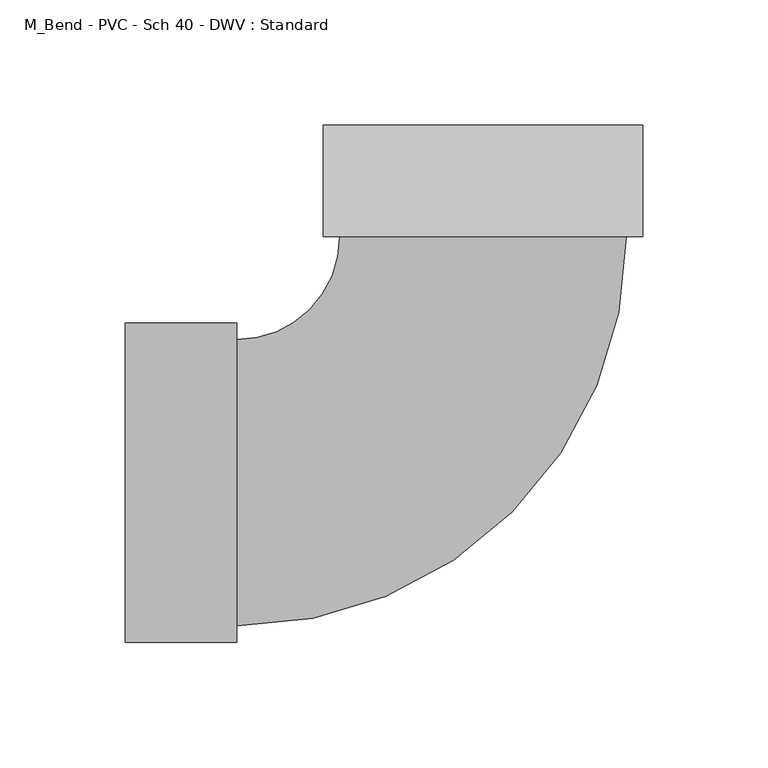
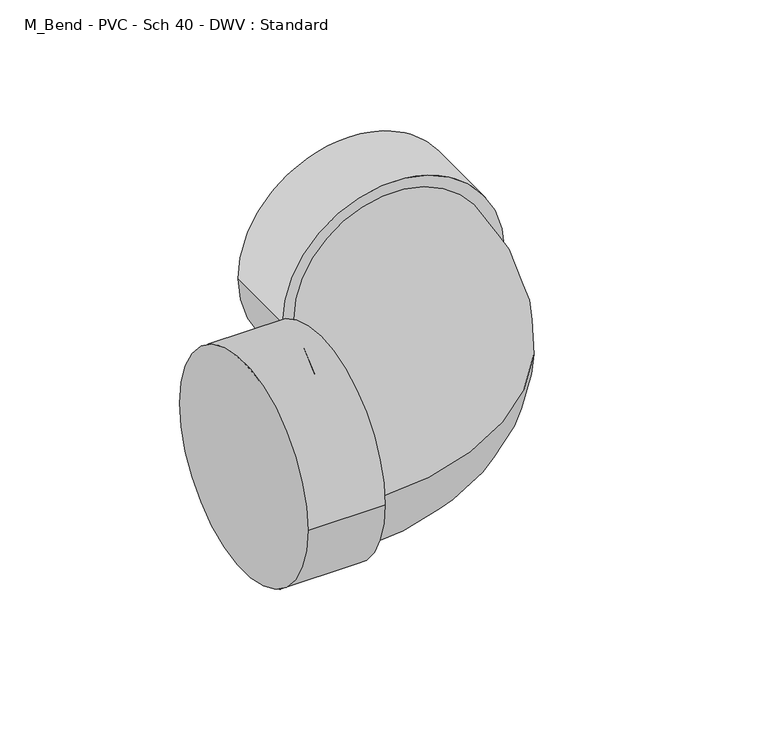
"""IFC4 building model written with IfcOpenShell, lengths in millimetres: pipe fitting geometry, M_Bend - PVC - Sch 40 - DWV : Standard."""

from ifc_helpers import new_model, si_unit, point, frame, origin, place, context, project, spatial, circle_curve, ellipse_curve, trimmed, source, transform, mapped, element, save
from ifc_brep_helpers import plane_surface, cylinder_surface, revolved_surface, advanced_brep


def m_bend_pvc_sch_40_dwv_standard_b6ce66eb(model_context):
    return source(origin(), model_context, "Body", "AdvancedBrep", [
        advanced_brep(
        [(-142.875, -63.754, 0.0), (-142.875, 63.754, 0.0), (-98.425, -63.754, 0.0), (-98.425, 63.754, 0.0), (-98.425, -57.15, 0.0), (-98.425, 57.15, 0.0), (-57.1505338, 98.4246901, 0.0), (57.1494662, 98.4253099, 0.0), (63.7534662, 98.4253458, 0.0), (-63.7545338, 98.4246542, 0.0), (63.7532251, 142.8753458, 0.0), (-63.7547749, 142.8746542, 0.0)],
        [
            (0, 1, circle_curve(frame((-142.875, 0.0, 0.0), z_axis=(-1.0, 0.0, 0.0), x_axis=(0.0, 1.0, 0.0)), 63.754)),
            (1, 0, circle_curve(frame((-142.875, 0.0, 0.0), z_axis=(-1.0, 0.0, 0.0), x_axis=(0.0, 1.0, 0.0)), 63.754)),
            (2, 3, circle_curve(frame((-98.425, 0.0, 0.0), z_axis=(1.0, 0.0, 0.0), x_axis=(0.0, 1.0, 0.0)), 63.754)),
            (3, 2, circle_curve(frame((-98.425, 0.0, 0.0), z_axis=(1.0, 0.0, 0.0), x_axis=(0.0, 1.0, 0.0)), 63.754)),
            (4, 5, circle_curve(frame((-98.425, 0.0, 0.0), z_axis=(-1.0, 0.0, 0.0), x_axis=(0.0, 1.0, 0.0)), 57.15)),
            (5, 4, circle_curve(frame((-98.425, 0.0, 0.0), z_axis=(-1.0, 0.0, 0.0), x_axis=(0.0, 1.0, 0.0)), 57.15)),
            (0, 2),
            (3, 1),
            (6, 5, circle_curve(frame((-98.425, 98.4244662, 0.0), z_axis=(0.0, 0.0, -1.0), x_axis=(0.0, -1.0, 0.0)), 41.2744662)),
            (4, 7, circle_curve(frame((-98.425, 98.4244662, 0.0), z_axis=(0.0, 0.0, 1.0), x_axis=(0.0, -1.0, 0.0)), 155.5744662)),
            (7, 6, circle_curve(frame((-0.0005338, 98.425, 0.0), z_axis=(5.423366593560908e-06, -0.9999999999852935, 0.0), x_axis=(-0.9999999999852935, -5.423366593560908e-06, 0.0)), 57.15)),
            (6, 7, circle_curve(frame((-0.0005338, 98.425, 0.0), z_axis=(5.423366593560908e-06, -0.9999999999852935, 0.0), x_axis=(-0.9999999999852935, -5.423366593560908e-06, 0.0)), 57.15)),
            (8, 9, circle_curve(frame((-0.0005338, 98.425, 0.0), z_axis=(5.423366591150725e-06, -0.9999999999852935, 0.0), x_axis=(-0.9999999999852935, -5.423366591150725e-06, 0.0)), 63.754)),
            (9, 8, circle_curve(frame((-0.0005338, 98.425, 0.0), z_axis=(5.423366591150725e-06, -0.9999999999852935, 0.0), x_axis=(-0.9999999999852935, -5.423366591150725e-06, 0.0)), 63.754)),
            (10, 11, circle_curve(frame((-0.0007749, 142.875, 0.0), z_axis=(-5.423366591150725e-06, 0.9999999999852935, 0.0), x_axis=(-0.9999999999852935, -5.423366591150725e-06, 0.0)), 63.754)),
            (11, 10, circle_curve(frame((-0.0007749, 142.875, 0.0), z_axis=(-5.423366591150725e-06, 0.9999999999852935, 0.0), x_axis=(-0.9999999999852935, -5.423366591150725e-06, 0.0)), 63.754)),
            (8, 10),
            (11, 9),
        ],
        [
            plane_surface(frame((-142.875, 0.0, 0.0), z_axis=(-1.0, 0.0, 0.0), x_axis=(0.0, 0.0, 1.0))),
            plane_surface(frame((-98.425, 0.0, 0.0), z_axis=(1.0, 0.0, 0.0), x_axis=(0.0, 0.0, 1.0))),
            cylinder_surface(frame((-142.875, 0.0, 0.0), z_axis=(-1.0, 0.0, 0.0), x_axis=(0.0, 1.0, 0.0)), 63.754),
            revolved_surface(trimmed(ellipse_curve(frame((-98.425, 0.0, 0.0), z_axis=(-1.0, 0.0, 0.0), x_axis=(0.0, 1.0, 0.0)), 57.15, 57.15), [point((-98.425, -57.15, 0.0))], [point((-98.425, 57.15, 0.0))], True, "CARTESIAN"), (-98.425, 98.4244662, 0.0), (0.0, 0.0, 1.0)),
            revolved_surface(trimmed(ellipse_curve(frame((-98.425, 0.0, 0.0), z_axis=(-1.0, 0.0, 0.0), x_axis=(0.0, 1.0, 0.0)), 57.15, 57.15), [point((-98.425, 57.15, 0.0))], [point((-98.425, -57.15, 0.0))], True, "CARTESIAN"), (-98.425, 98.4244662, 0.0), (0.0, 0.0, 1.0)),
            plane_surface(frame((-0.0005338, 98.425, 0.0), z_axis=(5.423366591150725e-06, -0.9999999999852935, 0.0), x_axis=(0.0, 0.0, 1.0))),
            plane_surface(frame((-0.0007749, 142.875, 0.0), z_axis=(-5.423366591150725e-06, 0.9999999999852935, 0.0), x_axis=(0.0, 0.0, 1.0))),
            cylinder_surface(frame((-0.0005338, 98.425, 0.0), z_axis=(5.423366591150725e-06, -0.9999999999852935, 0.0), x_axis=(-0.9999999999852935, -5.423366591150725e-06, 0.0)), 63.754),
        ],
        [
            (0, [[1, 2]]),
            (1, [[3, 4], [5, 6]]),
            (2, [[-1, 7, -4, 8]]),
            (2, [[-2, -8, -3, -7]]),
            (3, [[9, -5, 10, 11]]),
            (4, [[-9, 12, -10, -6]]),
            (5, [[13, 14], [-11, -12]]),
            (6, [[15, 16]]),
            (7, [[-13, 17, -16, 18]]),
            (7, [[-14, -18, -15, -17]]),
        ],
    ),
    ])


if __name__ == "__main__":
    model = new_model("IFC4")
    model_context = context("Model", 3, world=origin())
    ifc_project = project(units=[si_unit("LENGTHUNIT", "METRE", prefix="MILLI")], contexts=[model_context])
    site = spatial("IfcSite", under=ifc_project)
    building = spatial("IfcBuilding", under=site)
    placement = place(None, origin())
    m_bend_pvc_sch_40_dwv_standard_shape = m_bend_pvc_sch_40_dwv_standard_b6ce66eb(model_context)
    element("IfcPipeFitting", 1, ObjectType="M_Bend - PVC - Sch 40 - DWV : Standard", at=placement, inside=building, context=model_context, shape_type="MappedRepresentation", body=[
        mapped(m_bend_pvc_sch_40_dwv_standard_shape, transform((0.0, 0.0, 0.0), x_axis=(1.0, 0.0, 0.0), y_axis=(0.0, 1.0, 0.0), z_axis=(0.0, 0.0, 1.0))),
    ])
    save(model, "model.ifc")
